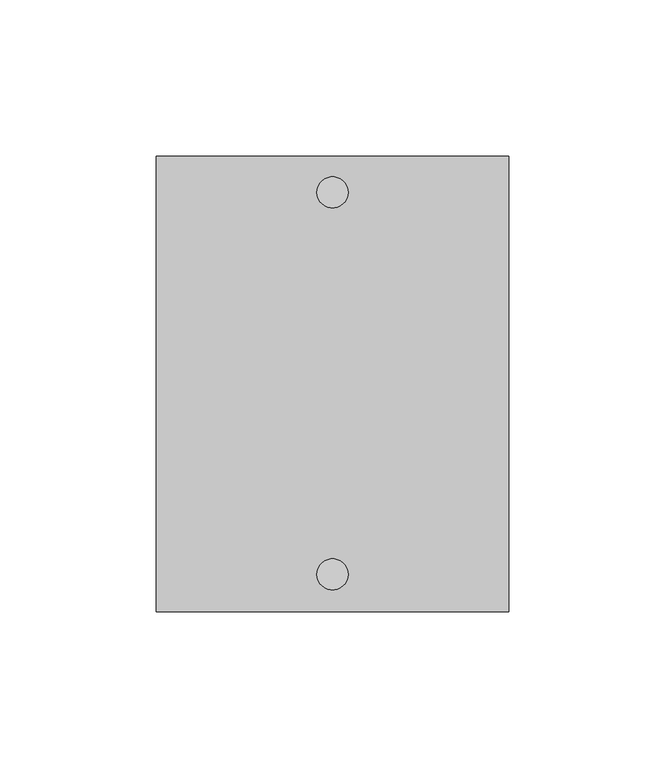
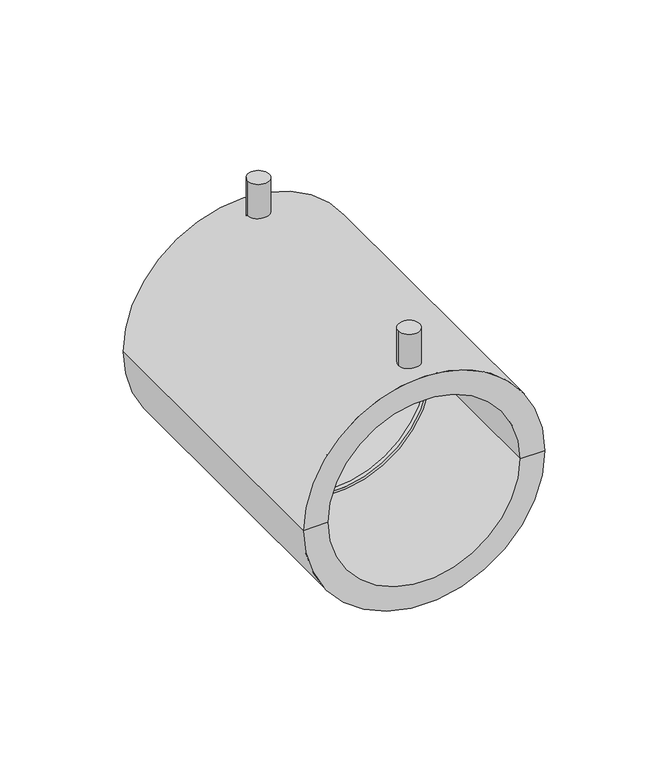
"""IFC4 building model written with IfcOpenShell, lengths in millimetres: pipe fitting geometry, NIRON RED electrico manguito : Estándar."""

from ifc_helpers import new_model, si_unit, point, frame, frame_2d, origin, place, context, project, spatial, polyline, circle_curve, trimmed, segment, composite_curve, outline, extrude, source, transform, mapped, element, save
from ifc_brep_helpers import plane_surface, cylinder_surface, revolved_surface, advanced_brep


def pipe_fitting_67b54e44(model_context):
    return source(origin(), model_context, "Body", "SolidModel", [
        advanced_brep(
        [(56.5, 146.0, 0.0), (-56.5, 146.0, 0.0), (-45.0, 146.0, 0.0), (45.0, 146.0, 0.0), (56.5, 0.0, 0.0), (-56.5, 0.0, 0.0), (45.0, 0.0, 0.0), (-45.0, 0.0, 0.0), (45.0, 72.0, 0.0), (-45.0, 72.0, 0.0), (43.75, 72.0, 0.0), (-43.75, 72.0, 0.0), (43.75, 74.0, 0.0), (-43.75, 74.0, 0.0), (45.0, 74.0, 0.0), (-45.0, 74.0, 0.0)],
        [
            (0, 1, circle_curve(frame((0.0, 146.0, 0.0), z_axis=(0.0, 1.0, 0.0), x_axis=(-1.0, 0.0, 0.0)), 56.5)),
            (1, 2),
            (2, 3, circle_curve(frame((0.0, 146.0, 0.0), z_axis=(0.0, -1.0, 0.0), x_axis=(-1.0, 0.0, 0.0)), 45.0)),
            (3, 0),
            (1, 0, circle_curve(frame((0.0, 146.0, 0.0), z_axis=(0.0, 1.0, 0.0), x_axis=(-1.0, 0.0, 0.0)), 56.5)),
            (3, 2, circle_curve(frame((0.0, 146.0, 0.0), z_axis=(0.0, -1.0, 0.0), x_axis=(-1.0, 0.0, 0.0)), 45.0)),
            (4, 5, circle_curve(frame((0.0, 0.0, 0.0), z_axis=(0.0, 1.0, 0.0), x_axis=(-1.0, 0.0, 0.0)), 56.5)),
            (5, 1),
            (0, 4),
            (5, 4, circle_curve(frame((0.0, 0.0, 0.0), z_axis=(0.0, 1.0, 0.0), x_axis=(-1.0, 0.0, 0.0)), 56.5)),
            (6, 7, circle_curve(frame((0.0, 0.0, 0.0), z_axis=(0.0, 1.0, 0.0), x_axis=(-1.0, 0.0, 0.0)), 45.0)),
            (7, 5),
            (4, 6),
            (7, 6, circle_curve(frame((0.0, 0.0, 0.0), z_axis=(0.0, 1.0, 0.0), x_axis=(-1.0, 0.0, 0.0)), 45.0)),
            (8, 9, circle_curve(frame((0.0, 72.0, 0.0), z_axis=(0.0, 1.0, 0.0), x_axis=(-1.0, 0.0, 0.0)), 45.0)),
            (9, 7),
            (6, 8),
            (9, 8, circle_curve(frame((0.0, 72.0, 0.0), z_axis=(0.0, 1.0, 0.0), x_axis=(-1.0, 0.0, 0.0)), 45.0)),
            (10, 11, circle_curve(frame((0.0, 72.0, 0.0), z_axis=(0.0, 1.0, 0.0), x_axis=(-1.0, 0.0, 0.0)), 43.75)),
            (11, 9),
            (8, 10),
            (11, 10, circle_curve(frame((0.0, 72.0, 0.0), z_axis=(0.0, 1.0, 0.0), x_axis=(-1.0, 0.0, 0.0)), 43.75)),
            (12, 13, circle_curve(frame((0.0, 74.0, 0.0), z_axis=(0.0, 1.0, 0.0), x_axis=(-1.0, 0.0, 0.0)), 43.75)),
            (13, 11),
            (10, 12),
            (13, 12, circle_curve(frame((0.0, 74.0, 0.0), z_axis=(0.0, 1.0, 0.0), x_axis=(-1.0, 0.0, 0.0)), 43.75)),
            (14, 15, circle_curve(frame((0.0, 74.0, 0.0), z_axis=(0.0, 1.0, 0.0), x_axis=(-1.0, 0.0, 0.0)), 45.0)),
            (15, 13),
            (12, 14),
            (15, 14, circle_curve(frame((0.0, 74.0, 0.0), z_axis=(0.0, 1.0, 0.0), x_axis=(-1.0, 0.0, 0.0)), 45.0)),
            (2, 15),
            (14, 3),
        ],
        [
            plane_surface(frame((0.0, 146.0, 0.0), z_axis=(0.0, 1.0, 0.0), x_axis=(-1.0, 0.0, 0.0))),
            cylinder_surface(frame((0.0, 171.0, 0.0), z_axis=(0.0, -1.0, 0.0), x_axis=(-1.0, 0.0, 0.0)), 56.5),
            plane_surface(frame((0.0, 0.0, 0.0), z_axis=(0.0, -1.0, 0.0), x_axis=(-1.0, 0.0, 0.0))),
            revolved_surface(polyline([(-45.0, 0.0, 0.0), (-45.0, 72.0, 0.0)]), (0.0, 171.0, 0.0), (0.0, -1.0, 0.0)),
            plane_surface(frame((0.0, 72.0, 0.0), z_axis=(0.0, -1.0, 0.0), x_axis=(-1.0, 0.0, 0.0))),
            revolved_surface(polyline([(-43.75, 72.0, 0.0), (-43.75, 74.0, 0.0)]), (0.0, 171.0, 0.0), (0.0, -1.0, 0.0)),
            plane_surface(frame((0.0, 74.0, 0.0), z_axis=(0.0, 1.0, 0.0), x_axis=(-1.0, 0.0, 0.0))),
            revolved_surface(polyline([(-45.0, 74.0, 0.0), (-45.0, 146.0, 0.0)]), (0.0, 171.0, 0.0), (0.0, -1.0, 0.0)),
        ],
        [
            (0, [[1, 2, 3, 4]]),
            (0, [[5, -4, 6, -2]]),
            (1, [[7, 8, -1, 9]]),
            (1, [[10, -9, -5, -8]]),
            (2, [[11, 12, -7, 13]]),
            (2, [[14, -13, -10, -12]]),
            (3, [[15, 16, -11, 17]]),
            (3, [[18, -17, -14, -16]]),
            (4, [[19, 20, -15, 21]]),
            (4, [[22, -21, -18, -20]]),
            (5, [[23, 24, -19, 25]]),
            (5, [[26, -25, -22, -24]]),
            (6, [[27, 28, -23, 29]]),
            (6, [[30, -29, -26, -28]]),
            (7, [[-3, 31, -27, 32]]),
            (7, [[-6, -32, -30, -31]]),
        ],
    ),
        extrude(outline(composite_curve([segment(trimmed(circle_curve(frame_2d((0.0, 12.0)), 5.0), [point((-5.0, 12.0))], [point((5.0, 12.0))], False, "CARTESIAN"), True, "CONTINUOUS"), segment(trimmed(circle_curve(frame_2d((0.0, 12.0)), 5.0), [point((5.0, 12.0))], [point((-5.0, 12.0))], False, "CARTESIAN"), True, "CONTINUOUS")], self_intersect=False)), frame((0.0, 0.0, 53.5), z_axis=(0.0, 0.0, 1.0), x_axis=(1.0, 0.0, 0.0)), (0.0, 0.0, 1.0), 20.0),
        extrude(outline(composite_curve([segment(trimmed(circle_curve(frame_2d((0.0, 134.3742842)), 5.0), [point((-5.0, 134.3742842))], [point((5.0, 134.3742842))], False, "CARTESIAN"), True, "CONTINUOUS"), segment(trimmed(circle_curve(frame_2d((0.0, 134.3742842)), 5.0), [point((5.0, 134.3742842))], [point((-5.0, 134.3742842))], False, "CARTESIAN"), True, "CONTINUOUS")], self_intersect=False)), frame((0.0, 0.0, 53.5), z_axis=(0.0, 0.0, 1.0), x_axis=(1.0, 0.0, 0.0)), (0.0, 0.0, 1.0), 20.0),
    ])


if __name__ == "__main__":
    model = new_model("IFC4")
    model_context = context("Model", 3, world=origin())
    ifc_project = project(units=[si_unit("LENGTHUNIT", "METRE", prefix="MILLI")], contexts=[model_context])
    site = spatial("IfcSite", under=ifc_project)
    building = spatial("IfcBuilding", under=site)
    placement = place(None, origin())
    pipe_fitting_shape = pipe_fitting_67b54e44(model_context)
    element("IfcPipeFitting", 1, ObjectType="NIRON RED electrico manguito : Estándar", at=placement, inside=building, context=model_context, shape_type="MappedRepresentation", body=[
        mapped(pipe_fitting_shape, transform((0.0, 0.0, 0.0), x_axis=(1.0, 0.0, 0.0), y_axis=(0.0, 1.0, 0.0), z_axis=(0.0, 0.0, 1.0))),
    ])
    save(model, "model.ifc")
